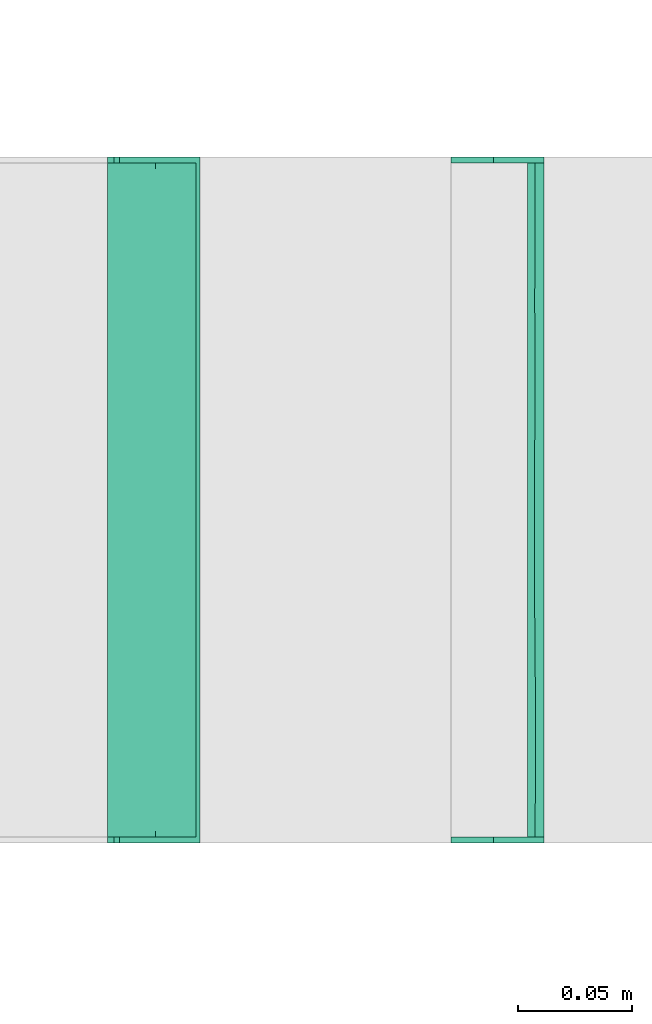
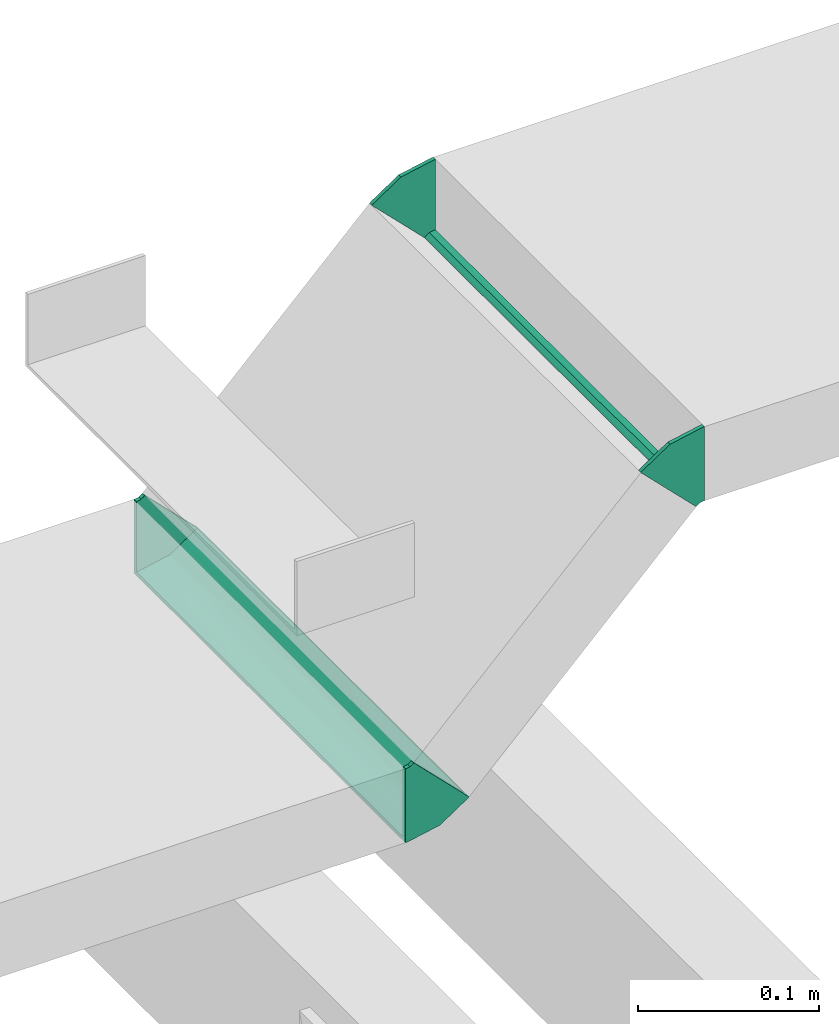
# One storey, part 36 of 166: 2 flow fittings.
"""IFC2X3 building model written with IfcOpenShell, lengths in metres."""

from ifc_helpers import new_model, entity, si_unit, converted_unit, derived_unit, direction, frame, origin, place, context, subcontext, project, spatial, faceted_brep, source, transform, mapped, type_object, type_shapes, element, save


model = new_model("IFC2X3")

# Units and contexts
model_context = context("Model", 3, precision=1e-05, world=origin(), true_north=direction((6.12303176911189e-17, 1.0)))
body_context = subcontext(model_context, "Body", "Model", "MODEL_VIEW")
ifc_project = project(units=[si_unit("LENGTHUNIT", "METRE"), si_unit("AREAUNIT", "SQUARE_METRE"), si_unit("VOLUMEUNIT", "CUBIC_METRE"), converted_unit("PLANEANGLEUNIT", "DEGREE", entity("IfcRatioMeasure", 0.0174532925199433), si_unit("PLANEANGLEUNIT", "RADIAN"), dimensions=[0, 0, 0, 0, 0, 0, 0]), si_unit("MASSUNIT", "GRAM", prefix="KILO"), derived_unit("MASSDENSITYUNIT", [(si_unit("MASSUNIT", "GRAM", prefix="KILO"), 1), (si_unit("LENGTHUNIT", "METRE"), -3)]), si_unit("TIMEUNIT", "SECOND"), si_unit("FREQUENCYUNIT", "HERTZ"), si_unit("THERMODYNAMICTEMPERATUREUNIT", "DEGREE_CELSIUS"), derived_unit("THERMALTRANSMITTANCEUNIT", [(si_unit("MASSUNIT", "GRAM", prefix="KILO"), 1), (si_unit("THERMODYNAMICTEMPERATUREUNIT", "KELVIN"), -1), (si_unit("TIMEUNIT", "SECOND"), -3)]), derived_unit("VOLUMETRICFLOWRATEUNIT", [(si_unit("LENGTHUNIT", "METRE"), 3), (si_unit("TIMEUNIT", "SECOND"), -1)]), si_unit("ELECTRICCURRENTUNIT", "AMPERE"), si_unit("ELECTRICVOLTAGEUNIT", "VOLT"), si_unit("POWERUNIT", "WATT"), si_unit("FORCEUNIT", "NEWTON"), si_unit("ILLUMINANCEUNIT", "LUX"), si_unit("LUMINOUSFLUXUNIT", "LUMEN"), si_unit("LUMINOUSINTENSITYUNIT", "CANDELA"), derived_unit("USERDEFINED", [(si_unit("MASSUNIT", "GRAM", prefix="KILO"), -1), (si_unit("LENGTHUNIT", "METRE"), -2), (si_unit("TIMEUNIT", "SECOND"), 3), (si_unit("LUMINOUSFLUXUNIT", "LUMEN"), 1)]), derived_unit("LINEARVELOCITYUNIT", [(si_unit("LENGTHUNIT", "METRE"), 1), (si_unit("TIMEUNIT", "SECOND"), -1)]), si_unit("PRESSUREUNIT", "PASCAL"), derived_unit("USERDEFINED", [(si_unit("LENGTHUNIT", "METRE"), -2), (si_unit("MASSUNIT", "GRAM", prefix="KILO"), 1), (si_unit("TIMEUNIT", "SECOND"), -2)])], contexts=[model_context])

# Site, building, storey
site_placement = place(None, origin())
site = spatial("IfcSite", under=ifc_project, at=site_placement, Name="Default", CompositionType="ELEMENT")
building_placement = place(site_placement, origin())
building = spatial("IfcBuilding", under=site, at=building_placement, CompositionType="ELEMENT")
storey_placement = place(building_placement, frame((0.0, 0.0, 4.27)))
storey = spatial("IfcBuildingStorey", under=building, at=storey_placement, Name="01", CompositionType="ELEMENT", Elevation=4.27)

# Flow fittings
cable_carrier_fitting_type_1 = type_object("IfcCableCarrierFittingType", Name="E_Bend_Vertical_Inside_CA_Generic_MEPcontent", PredefinedType="NOTDEFINED")
shared_shape_1 = source(origin(), body_context, "Body", "Brep", [
    faceted_brep([(-0.00886744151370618, 0.0264878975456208, 0.14746000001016), (-0.00886744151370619, 0.0264878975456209, 0.15), (0.0264878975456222, -0.00886744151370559, 0.15), (0.0264878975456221, -0.0088674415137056, 0.0), (0.0264878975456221, -0.00886744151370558, -0.15), (-0.00886744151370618, 0.0264878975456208, -0.15), (-0.00886744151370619, 0.0264878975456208, -0.14746000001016), (0.0246918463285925, -0.00707139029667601, -0.14746000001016), (0.0246918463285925, -0.00707139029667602, 0.0), (0.0246918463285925, -0.007071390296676, 0.14746000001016), (-0.0124595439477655, 0.025, -0.14746000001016), (-0.0124595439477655, 0.025, -0.15), (-0.0124595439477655, -0.025, -0.15), (-0.0124595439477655, -0.025, 0.0), (-0.0124595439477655, -0.025, 0.15), (-0.0124595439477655, 0.025, 0.15), (-0.0124595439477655, 0.025, 0.14746000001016), (-0.0124595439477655, -0.02246000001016, 0.14746000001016), (-0.0124595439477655, -0.02246000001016, 0.0), (-0.0124595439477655, -0.02246000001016, -0.14746000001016), (-0.00192044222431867, -0.0229036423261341, 0.15), (0.00861865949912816, -0.0208072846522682, 0.15), (0.0175532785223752, -0.0148373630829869, 0.15), (-0.0105155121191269, 0.0253866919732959, 0.15), (-0.0105155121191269, 0.0253866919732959, 0.14746000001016), (0.0161692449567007, -0.0127660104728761, 0.14746000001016), (0.00764664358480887, -0.0184606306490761, 0.14746000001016), (-0.00240645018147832, -0.0204603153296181, 0.14746000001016), (-0.00240645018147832, -0.0204603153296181, -0.14746000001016), (0.00764664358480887, -0.0184606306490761, -0.14746000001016), (0.0161692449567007, -0.0127660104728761, -0.14746000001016), (-0.0105155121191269, 0.0253866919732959, -0.14746000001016), (-0.0105155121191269, 0.0253866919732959, -0.15), (0.0175532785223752, -0.0148373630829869, -0.15), (0.00861865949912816, -0.0208072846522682, -0.15), (-0.00192044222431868, -0.0229036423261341, -0.15), (0.00352933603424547, -0.0226282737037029, 0.0), (0.0151733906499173, -0.0175669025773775, 0.0), (0.00279201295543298, -0.0201976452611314, 0.0), (0.0144110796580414, -0.0150688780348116, 0.0)], [[[0, 1, 2, 3, 4, 5, 6, 7, 8, 9]], [[10, 11, 12, 13, 14, 15, 16, 17, 18, 19]], [[15, 14, 20, 21, 22, 2, 1, 23]], [[24, 0, 9, 25, 26, 27, 17, 16]], [[10, 19, 28, 29, 30, 7, 6, 31]], [[32, 5, 4, 33, 34, 35, 12, 11]], [[35, 36, 13]], [[33, 3, 37]], [[34, 36, 35]], [[34, 37, 36]], [[37, 3, 22]], [[3, 33, 4]], [[2, 22, 3]], [[21, 20, 36]], [[37, 21, 36]], [[37, 34, 33]], [[20, 13, 36]], [[13, 20, 14]], [[12, 35, 13]], [[22, 21, 37]], [[31, 32, 11, 10]], [[15, 23, 24, 16]], [[6, 5, 32, 31]], [[1, 0, 24, 23]], [[18, 38, 28]], [[39, 8, 30]], [[28, 38, 29]], [[38, 39, 29]], [[25, 8, 39]], [[7, 30, 8]], [[8, 25, 9]], [[38, 27, 26]], [[38, 26, 39]], [[30, 29, 39]], [[38, 18, 27]], [[17, 27, 18]], [[18, 28, 19]], [[39, 26, 25]]]),
    faceted_brep([(-0.00886744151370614, 0.0264878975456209, 0.15), (-0.00886744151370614, 0.0264878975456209, 0.14746000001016), (0.0246918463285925, -0.00707139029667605, 0.14746000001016), (0.0246918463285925, -0.00707139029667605, -0.14746000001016), (-0.00886744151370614, 0.0264878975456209, -0.14746000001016), (-0.00886744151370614, 0.0264878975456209, -0.15), (0.0264878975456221, -0.00886744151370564, -0.15), (0.0264878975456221, -0.00886744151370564, 0.15), (-0.00816033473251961, 0.0271950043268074, 0.15), (0.0271950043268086, -0.00816033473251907, 0.15), (0.0271950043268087, -0.00816033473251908, -0.15), (-0.00816033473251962, 0.0271950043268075, -0.15), (-0.00816033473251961, 0.0271950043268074, -0.14746000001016), (0.025398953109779, -0.00636428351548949, -0.14746000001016), (0.025398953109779, -0.00636428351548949, 0.14746000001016), (-0.00816033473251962, 0.0271950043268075, 0.14746000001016)], [[[0, 1, 2, 3, 4, 5, 6, 7]], [[8, 9, 10, 11, 12, 13, 14, 15]], [[6, 5, 11, 10]], [[4, 3, 13, 12]], [[2, 1, 15, 14]], [[0, 7, 9, 8]], [[1, 0, 8, 15]], [[3, 2, 14, 13]], [[5, 4, 12, 11]], [[7, 6, 10, 9]]]),
    faceted_brep([(-0.0124595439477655, 0.025, 0.15), (-0.0124595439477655, -0.025, 0.15), (-0.0124595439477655, -0.025, -0.15), (-0.0124595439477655, 0.025, -0.15), (-0.0124595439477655, 0.025, -0.14746000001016), (-0.0124595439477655, -0.02246000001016, -0.14746000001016), (-0.0124595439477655, -0.02246000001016, 0.14746000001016), (-0.0124595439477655, 0.025, 0.14746000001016), (-0.0134595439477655, 0.025, 0.15), (-0.0134595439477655, 0.025, 0.14746000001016), (-0.0134595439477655, -0.02246000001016, 0.14746000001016), (-0.0134595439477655, -0.02246000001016, -0.14746000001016), (-0.0134595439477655, 0.025, -0.14746000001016), (-0.0134595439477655, 0.025, -0.15), (-0.0134595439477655, -0.025, -0.15), (-0.0134595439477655, -0.025, 0.15)], [[[0, 1, 2, 3, 4, 5, 6, 7]], [[8, 9, 10, 11, 12, 13, 14, 15]], [[1, 0, 8, 15]], [[7, 6, 10, 9]], [[5, 4, 12, 11]], [[3, 2, 14, 13]], [[2, 1, 15, 14]], [[4, 3, 13, 12]], [[6, 5, 11, 10]], [[0, 7, 9, 8]]]),
])
type_shapes(cable_carrier_fitting_type_1, [shared_shape_1])
flow_fitting_1_placement = place(storey_placement, frame((31.957385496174, -188.087883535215, 2.67095756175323), z_axis=(0.0, 1.0, 0.0), x_axis=(-0.707106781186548, 0.0, -0.707106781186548)))
element("IfcFlowFitting", 1, at=flow_fitting_1_placement, inside=storey, type_object=cable_carrier_fitting_type_1, Name="E_Bend_Vertical_Inside_CA_Generic_MEPcontent:E_Bend_Vertical_Inside_CA_Generic_MEPcontent", ObjectType="E_Bend_Vertical_Inside_CA_Generic_MEPcontent:E_Bend_Vertical_Inside_CA_Generic_MEPcontent", context=body_context, shape_type="MappedRepresentation", body=[
    mapped(shared_shape_1, transform((0.0, 0.0, 0.0), scale=1.0)),
])
cable_carrier_fitting_type_2 = type_object("IfcCableCarrierFittingType", Name="E_Bend_Vertical_Outside_CA_Generic_MEPcontent", PredefinedType="NOTDEFINED")
shared_shape_2 = source(origin(), body_context, "Body", "Brep", [
    faceted_brep([(-0.00707139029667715, 0.0246918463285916, 0.14746000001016), (-0.00707139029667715, 0.0246918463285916, 0.123363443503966), (-0.00707139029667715, 0.0246918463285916, 0.0963862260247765), (-0.00707139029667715, 0.0246918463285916, 0.0708493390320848), (-0.00707139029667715, 0.0246918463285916, 0.045312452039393), (-0.00707139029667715, 0.0246918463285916, 0.0212158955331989), (-0.00707139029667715, 0.0246918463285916, -0.00288066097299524), (-0.00707139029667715, 0.0246918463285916, -0.0269772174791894), (-0.00707139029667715, 0.0246918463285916, -0.0510737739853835), (-0.00707139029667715, 0.0246918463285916, -0.0751703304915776), (-0.00707139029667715, 0.0246918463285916, -0.0992668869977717), (-0.00707139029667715, 0.0246918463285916, -0.123363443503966), (-0.00707139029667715, 0.0246918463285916, -0.14746000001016), (0.0264878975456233, -0.00886744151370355, -0.14746000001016), (0.0264878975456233, -0.00886744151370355, -0.15), (-0.00886744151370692, 0.026487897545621, -0.15), (-0.00886744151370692, 0.026487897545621, -0.130325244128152), (-0.00886744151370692, 0.026487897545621, -0.110650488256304), (-0.00886744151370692, 0.026487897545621, -0.0909757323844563), (-0.00886744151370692, 0.026487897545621, -0.0713009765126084), (-0.00886744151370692, 0.026487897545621, -0.0516262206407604), (-0.00886744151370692, 0.026487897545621, -0.0319514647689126), (-0.00886744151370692, 0.026487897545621, -0.0122767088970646), (-0.00886744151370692, 0.026487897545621, 0.00739804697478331), (-0.00886744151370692, 0.026487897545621, 0.0252232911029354), (-0.00886744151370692, 0.026487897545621, 0.0430485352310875), (-0.00886744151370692, 0.026487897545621, 0.0608737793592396), (-0.00886744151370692, 0.026487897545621, 0.0786990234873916), (-0.00886744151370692, 0.026487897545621, 0.0946747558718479), (-0.00886744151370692, 0.026487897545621, 0.110650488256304), (-0.00886744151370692, 0.026487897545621, 0.130325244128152), (-0.00886744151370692, 0.026487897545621, 0.15), (0.0264878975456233, -0.00886744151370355, 0.15), (0.0264878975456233, -0.00886744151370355, 0.14746000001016), (-0.0124595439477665, 0.02246000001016, -0.14746000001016), (-0.0124595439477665, 0.02246000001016, -0.123363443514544), (-0.0124595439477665, 0.02246000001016, -0.0992668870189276), (-0.0124595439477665, 0.02246000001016, -0.0751703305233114), (-0.0124595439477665, 0.02246000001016, -0.0510737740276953), (-0.0124595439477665, 0.02246000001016, -0.0255368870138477), (-0.0124595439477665, 0.02246000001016, 0.0), (-0.0124595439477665, 0.02246000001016, 0.03686500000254), (-0.0124595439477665, 0.02246000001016, 0.05529750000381), (-0.0124595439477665, 0.02246000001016, 0.07373000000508), (-0.0124595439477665, 0.02246000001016, 0.11059500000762), (-0.0124595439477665, 0.02246000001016, 0.14746000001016), (-0.0124595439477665, -0.025, 0.14746000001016), (-0.0124595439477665, -0.025, 0.15), (-0.0124595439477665, 0.025, 0.15), (-0.0124595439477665, 0.025, 0.130325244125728), (-0.0124595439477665, 0.025, 0.1125), (-0.0124595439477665, 0.025, 0.09375), (-0.0124595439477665, 0.025, 0.075), (-0.0124595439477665, 0.025, 0.05625), (-0.0124595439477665, 0.025, 0.0375), (-0.0124595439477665, 0.025, 0.01875), (-0.0124595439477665, 0.025, 0.0), (-0.0124595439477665, 0.025, -0.0178252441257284), (-0.0124595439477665, 0.025, -0.0356504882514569), (-0.0124595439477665, 0.025, -0.0534757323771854), (-0.0124595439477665, 0.025, -0.0713009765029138), (-0.0124595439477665, 0.025, -0.0909757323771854), (-0.0124595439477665, 0.025, -0.110650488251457), (-0.0124595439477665, 0.025, -0.130325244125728), (-0.0124595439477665, 0.025, -0.15), (-0.0124595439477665, -0.025, -0.15), (-0.0124595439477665, -0.025, -0.14746000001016), (-0.00192044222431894, -0.0229036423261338, 0.15), (0.00861865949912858, -0.0208072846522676, 0.15), (0.0175532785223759, -0.0148373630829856, 0.15), (-0.0105155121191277, 0.025386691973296, 0.15), (-0.00456795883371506, -0.0234302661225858, 0.14746000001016), (0.00861865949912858, -0.0208072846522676, 0.14746000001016), (-0.00192044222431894, -0.0229036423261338, -0.15), (0.00861865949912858, -0.0208072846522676, -0.15), (0.00861865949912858, -0.0208072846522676, -0.14746000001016), (-0.00192044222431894, -0.0229036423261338, -0.14746000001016), (0.0175532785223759, -0.0148373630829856, 0.14746000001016), (0.0197977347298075, -0.0133376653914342, -0.15), (0.0175532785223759, -0.0148373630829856, -0.14746000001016), (-0.00954349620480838, 0.023040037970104, 0.14746000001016), (-0.00954349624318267, 0.0230400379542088, -0.0631220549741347), (-0.00954270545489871, 0.0230403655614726, -0.0382951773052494), (-0.00954349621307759, 0.0230400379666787, -0.11131516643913), (-0.00954349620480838, 0.023040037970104, -0.14746000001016), (-0.00934317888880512, 0.0231263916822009, 0.0332641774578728), (-0.00982348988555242, 0.0229304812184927, 0.124114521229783), (-0.00961193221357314, 0.0230120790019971, 0.0645137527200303), (-0.00948913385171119, 0.0230628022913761, -0.0872186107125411), (-0.00945057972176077, 0.023079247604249, 0.00916762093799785), (-0.00981715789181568, 0.0229328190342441, 0.0889891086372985), (-0.00946151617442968, 0.0230745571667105, -0.0145678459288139), (-0.0105155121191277, 0.025386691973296, -0.15), (-0.0106356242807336, 0.0253387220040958, -0.026737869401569), (-0.0104683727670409, 0.0254064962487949, -0.0429918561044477), (-0.0105155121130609, 0.0253866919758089, -0.105328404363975), (-0.0105155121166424, 0.0253866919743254, -0.120487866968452), (-0.0105155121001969, 0.0253866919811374, -0.0623883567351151), (-0.0105155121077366, 0.0253866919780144, -0.0781480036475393), (-0.01051551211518, 0.0253866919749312, 0.121412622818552), (-0.010348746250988, 0.0254592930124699, 0.016310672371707), (-0.0104407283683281, 0.0254183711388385, 0.00148144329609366), (-0.0106519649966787, 0.0253324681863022, -0.0125818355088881), (-0.010483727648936, 0.025399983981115, 0.0866868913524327), (-0.0105609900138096, 0.0253681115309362, 0.106209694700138), (-0.0103966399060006, 0.02543771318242, 0.135706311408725), (-0.010551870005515, 0.0253717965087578, -0.135243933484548), (-0.0104226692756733, 0.0254262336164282, 0.071338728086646), (-0.0104368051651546, 0.0254200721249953, 0.03716180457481), (-0.0103768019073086, 0.0254465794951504, 0.0519611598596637), (-0.0104363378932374, 0.0254202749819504, -0.0917382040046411)], [[[0, 1, 2, 3, 4, 5, 6, 7, 8, 9, 10, 11, 12, 13, 14, 15, 16, 17, 18, 19, 20, 21, 22, 23, 24, 25, 26, 27, 28, 29, 30, 31, 32, 33]], [[34, 35, 36, 37, 38, 39, 40, 41, 42, 43, 44, 45, 46, 47, 48, 49, 50, 51, 52, 53, 54, 55, 56, 57, 58, 59, 60, 61, 62, 63, 64, 65, 66]], [[48, 47, 67, 68, 69, 32, 31, 70]], [[67, 47, 46, 71, 72, 68]], [[65, 73, 74, 75, 76, 66]], [[69, 68, 72, 77, 33, 32]], [[74, 78, 14, 13, 79, 75]], [[80, 0, 33, 77, 72, 71, 46, 45]], [[81, 8, 82]], [[81, 82, 38]], [[83, 84, 12, 11, 10]], [[1, 0, 80]], [[5, 4, 85]], [[86, 1, 80]], [[85, 4, 87]], [[86, 45, 44]], [[38, 82, 39]], [[81, 88, 9]], [[42, 41, 85]], [[89, 6, 5]], [[8, 81, 9]], [[36, 88, 37]], [[2, 86, 90]], [[87, 90, 43]], [[89, 41, 40]], [[35, 34, 84, 83, 36]], [[36, 83, 88]], [[10, 9, 88]], [[82, 91, 39]], [[82, 7, 91]], [[89, 91, 6]], [[89, 5, 85]], [[91, 40, 39]], [[91, 89, 40]], [[81, 38, 37]], [[7, 82, 8]], [[7, 6, 91]], [[37, 88, 81]], [[10, 88, 83]], [[87, 42, 85]], [[89, 85, 41]], [[90, 87, 3]], [[4, 3, 87]], [[43, 42, 87]], [[90, 3, 2]], [[86, 2, 1]], [[44, 43, 90]], [[45, 86, 80]], [[90, 86, 44]], [[34, 66, 76, 75, 79, 13, 12, 84]], [[92, 15, 14, 78, 74, 73, 65, 64]], [[93, 94, 58]], [[95, 96, 63, 62, 61]], [[60, 97, 98]], [[50, 49, 99]], [[100, 101, 56]], [[56, 102, 57]], [[17, 16, 96]], [[28, 103, 104]], [[49, 105, 99]], [[106, 16, 15]], [[19, 18, 98, 97, 20]], [[99, 30, 29]], [[17, 96, 95, 18]], [[92, 64, 106]], [[52, 107, 53]], [[57, 93, 58]], [[105, 49, 48]], [[16, 106, 96]], [[104, 99, 29]], [[107, 52, 103]], [[51, 104, 103]], [[105, 70, 31]], [[99, 105, 30]], [[24, 23, 100]], [[108, 100, 55]], [[50, 99, 104]], [[25, 108, 109]], [[104, 51, 50]], [[26, 25, 109]], [[27, 103, 28]], [[104, 29, 28]], [[51, 103, 52]], [[107, 109, 53]], [[107, 103, 27]], [[108, 54, 109]], [[107, 27, 26]], [[26, 109, 107]], [[53, 109, 54]], [[54, 108, 55]], [[108, 25, 24]], [[106, 63, 96]], [[24, 100, 108]], [[55, 100, 56]], [[101, 22, 102]], [[101, 100, 23]], [[101, 23, 22]], [[102, 93, 57]], [[59, 94, 97]], [[21, 93, 22]], [[21, 94, 93]], [[20, 94, 21]], [[59, 58, 94]], [[60, 59, 97]], [[98, 61, 60]], [[20, 97, 94]], [[110, 95, 61]], [[98, 18, 110]], [[93, 102, 22]], [[101, 102, 56]], [[30, 105, 31]], [[48, 70, 105]], [[63, 106, 64]], [[15, 92, 106]], [[98, 110, 61]], [[110, 18, 95]]]),
    faceted_brep([(-0.00886744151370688, 0.0264878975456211, 0.15), (-0.00886744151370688, 0.0264878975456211, -0.15), (0.0264878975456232, -0.00886744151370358, -0.15), (0.0264878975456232, -0.00886744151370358, -0.14746000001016), (-0.00707139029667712, 0.0246918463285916, -0.14746000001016), (-0.00707139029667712, 0.0246918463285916, 0.14746000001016), (0.0264878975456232, -0.00886744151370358, 0.14746000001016), (0.0264878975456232, -0.00886744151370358, 0.15), (-0.0081603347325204, 0.0271950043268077, 0.15), (0.0271950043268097, -0.00816033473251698, 0.15), (0.0271950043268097, -0.00816033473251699, 0.14746000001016), (-0.00636428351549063, 0.0253989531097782, 0.14746000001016), (-0.00636428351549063, 0.0253989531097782, -0.14746000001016), (0.0271950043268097, -0.00816033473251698, -0.14746000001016), (0.0271950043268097, -0.00816033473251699, -0.15), (-0.00816033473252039, 0.0271950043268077, -0.15)], [[[0, 1, 2, 3, 4, 5, 6, 7]], [[8, 9, 10, 11, 12, 13, 14, 15]], [[1, 0, 8, 15]], [[2, 1, 15, 14]], [[3, 2, 14, 13]], [[4, 3, 13, 12]], [[5, 4, 12, 11]], [[6, 5, 11, 10]], [[7, 6, 10, 9]], [[0, 7, 9, 8]]]),
    faceted_brep([(-0.0124595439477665, 0.025, 0.15), (-0.0124595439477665, -0.025, 0.15), (-0.0124595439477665, -0.025, 0.14746000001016), (-0.0124595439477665, 0.02246000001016, 0.14746000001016), (-0.0124595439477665, 0.02246000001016, -0.14746000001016), (-0.0124595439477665, -0.025, -0.14746000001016), (-0.0124595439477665, -0.025, -0.15), (-0.0124595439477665, 0.025, -0.15), (-0.0134595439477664, 0.025, 0.15), (-0.0134595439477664, 0.025, -0.15), (-0.0134595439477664, -0.025, -0.15), (-0.0134595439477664, -0.025, -0.14746000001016), (-0.0134595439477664, 0.02246000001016, -0.14746000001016), (-0.0134595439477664, 0.02246000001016, 0.14746000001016), (-0.0134595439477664, -0.025, 0.14746000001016), (-0.0134595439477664, -0.025, 0.15)], [[[0, 1, 2, 3, 4, 5, 6, 7]], [[8, 9, 10, 11, 12, 13, 14, 15]], [[1, 0, 8, 15]], [[2, 1, 15, 14]], [[3, 2, 14, 13]], [[4, 3, 13, 12]], [[5, 4, 12, 11]], [[6, 5, 11, 10]], [[7, 6, 10, 9]], [[0, 7, 9, 8]]]),
])
type_shapes(cable_carrier_fitting_type_2, [shared_shape_2])
flow_fitting_2_placement = place(storey_placement, frame((32.1214342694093, -188.087883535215, 2.83500633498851), z_axis=(0.0, -1.0, 0.0), x_axis=(-1.0, 0.0, 0.0)))
element("IfcFlowFitting", 2, at=flow_fitting_2_placement, inside=storey, type_object=cable_carrier_fitting_type_2, Name="E_Bend_Vertical_Outside_CA_Generic_MEPcontent:E_Bend_Vertical_Outside_CA_Generic_MEPcontent", ObjectType="E_Bend_Vertical_Outside_CA_Generic_MEPcontent:E_Bend_Vertical_Outside_CA_Generic_MEPcontent", context=body_context, shape_type="MappedRepresentation", body=[
    mapped(shared_shape_2, transform((0.0, 0.0, 0.0), scale=1.0)),
])

save(model, "model.ifc")
